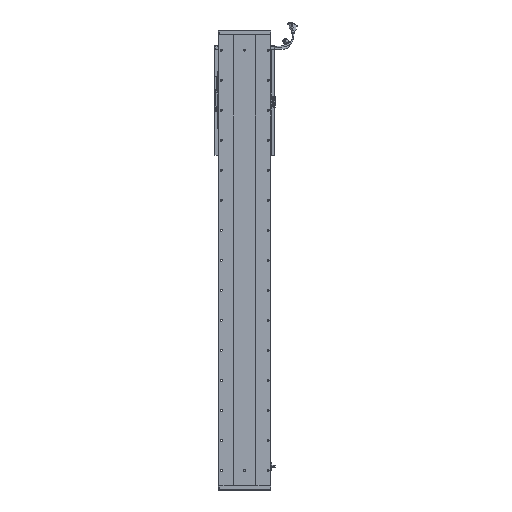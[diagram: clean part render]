
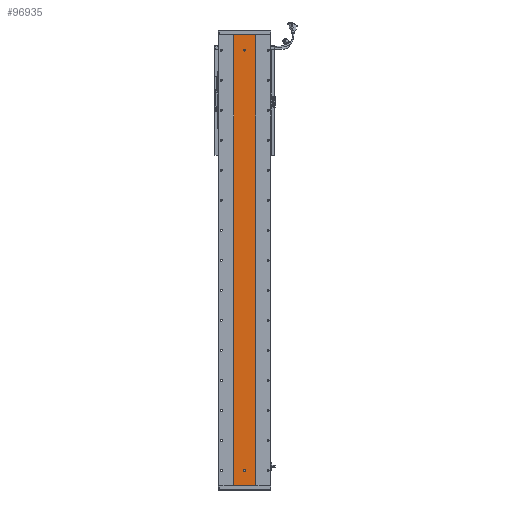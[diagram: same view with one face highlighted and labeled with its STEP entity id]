
A CAD part, front view. The second image highlights one B-rep face of the part: STEP entity #96935.
In plain terms, the highlighted planar face has unit normal (0, -1, 0).
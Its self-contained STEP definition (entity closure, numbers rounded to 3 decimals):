
#2423 = DIRECTION ( 'NONE',  ( 0., 1., 0. ) ) ;
#3058 = CIRCLE ( 'NONE', #61910, 3. ) ;
#4194 = ORIENTED_EDGE ( 'NONE', *, *, #55574, .F. ) ;
#5089 = CARTESIAN_POINT ( 'NONE',  ( 3280.529, 1415.701, 46.5 ) ) ;
#5743 = LINE ( 'NONE', #53277, #46044 ) ;
#7919 = AXIS2_PLACEMENT_3D ( 'NONE', #84320, #82903, #52257 ) ;
#9942 = DIRECTION ( 'NONE',  ( 1., 0., 0. ) ) ;
#10207 = VERTEX_POINT ( 'NONE', #47396 ) ;
#10556 = ORIENTED_EDGE ( 'NONE', *, *, #96652, .F. ) ;
#10754 = EDGE_LOOP ( 'NONE', ( #31314, #67454, #82282, #18215 ) ) ;
#11623 = EDGE_LOOP ( 'NONE', ( #10556, #42075, #16822, #41465, #43361 ) ) ;
#11889 = LINE ( 'NONE', #49975, #14410 ) ;
#12915 = CARTESIAN_POINT ( 'NONE',  ( 3283.529, 1415.701, 52.5 ) ) ;
#13720 = CARTESIAN_POINT ( 'NONE',  ( 3244.748, 1415.701, 0. ) ) ;
#14410 = VECTOR ( 'NONE', #65490, 1000. ) ;
#15051 = CIRCLE ( 'NONE', #21229, 3. ) ;
#16492 = CARTESIAN_POINT ( 'NONE',  ( 3244.748, 1415.701, 0. ) ) ;
#16822 = ORIENTED_EDGE ( 'NONE', *, *, #19238, .F. ) ;
#18215 = ORIENTED_EDGE ( 'NONE', *, *, #92267, .T. ) ;
#18465 = LINE ( 'NONE', #19101, #37353 ) ;
#18932 = DIRECTION ( 'NONE',  ( 0., -1., 0. ) ) ;
#19101 = CARTESIAN_POINT ( 'NONE',  ( 3244.748, 1415.701, 1502. ) ) ;
#19238 = EDGE_CURVE ( 'NONE', #31641, #32462, #53413, .T. ) ;
#21229 = AXIS2_PLACEMENT_3D ( 'NONE', #83650, #18932, #84707 ) ;
#21458 = VECTOR ( 'NONE', #83554, 1000. ) ;
#24348 = CARTESIAN_POINT ( 'NONE',  ( 3316.311, 1415.701, 0. ) ) ;
#25868 = CIRCLE ( 'NONE', #7919, 3. ) ;
#26399 = CARTESIAN_POINT ( 'NONE',  ( 3244.748, 1415.701, 1502. ) ) ;
#30458 = EDGE_CURVE ( 'NONE', #46452, #89216, #5743, .T. ) ;
#31314 = ORIENTED_EDGE ( 'NONE', *, *, #63542, .T. ) ;
#31641 = VERTEX_POINT ( 'NONE', #12915 ) ;
#32462 = VERTEX_POINT ( 'NONE', #97922 ) ;
#32804 = CARTESIAN_POINT ( 'NONE',  ( 3277.529, 1415.701, 49.5 ) ) ;
#34230 = DIRECTION ( 'NONE',  ( 0., 0., -1. ) ) ;
#36367 = CARTESIAN_POINT ( 'NONE',  ( 3280.529, 1415.701, 49.5 ) ) ;
#36529 = FACE_BOUND ( 'NONE', #11623, .T. ) ;
#37054 = AXIS2_PLACEMENT_3D ( 'NONE', #49355, #90528, #34230 ) ;
#37353 = VECTOR ( 'NONE', #9942, 1000. ) ;
#37437 = EDGE_CURVE ( 'NONE', #10207, #46452, #18465, .T. ) ;
#38662 = ORIENTED_EDGE ( 'NONE', *, *, #70644, .F. ) ;
#41142 = CARTESIAN_POINT ( 'NONE',  ( 3280.529, 1415.701, 1448. ) ) ;
#41465 = ORIENTED_EDGE ( 'NONE', *, *, #76467, .F. ) ;
#42075 = ORIENTED_EDGE ( 'NONE', *, *, #49813, .F. ) ;
#43361 = ORIENTED_EDGE ( 'NONE', *, *, #93058, .F. ) ;
#45176 = DIRECTION ( 'NONE',  ( 0., 0., -1. ) ) ;
#46044 = VECTOR ( 'NONE', #45176, 1000. ) ;
#46185 = DIRECTION ( 'NONE',  ( 0., -1., 0. ) ) ;
#46452 = VERTEX_POINT ( 'NONE', #74806 ) ;
#47396 = CARTESIAN_POINT ( 'NONE',  ( 3244.748, 1415.701, 1502. ) ) ;
#49355 = CARTESIAN_POINT ( 'NONE',  ( 3280.529, 1415.701, 52.5 ) ) ;
#49813 = EDGE_CURVE ( 'NONE', #32462, #101430, #11889, .T. ) ;
#49975 = CARTESIAN_POINT ( 'NONE',  ( 3277.529, 1415.701, 52.5 ) ) ;
#52257 = DIRECTION ( 'NONE',  ( 0., 0., -1. ) ) ;
#52288 = VERTEX_POINT ( 'NONE', #5089 ) ;
#53277 = CARTESIAN_POINT ( 'NONE',  ( 3316.311, 1415.701, 1502. ) ) ;
#53413 = CIRCLE ( 'NONE', #37054, 3. ) ;
#54089 = FACE_BOUND ( 'NONE', #96325, .T. ) ;
#54291 = DIRECTION ( 'NONE',  ( 0., 0., -1. ) ) ;
#55170 = CARTESIAN_POINT ( 'NONE',  ( 3244.748, 1415.701, 1502. ) ) ;
#55574 = EDGE_CURVE ( 'NONE', #82800, #95119, #25868, .T. ) ;
#57423 = AXIS2_PLACEMENT_3D ( 'NONE', #86682, #46185, #54291 ) ;
#59140 = DIRECTION ( 'NONE',  ( 0., 0., 1. ) ) ;
#60001 = CARTESIAN_POINT ( 'NONE',  ( 3283.529, 1415.701, 52.5 ) ) ;
#61191 = VECTOR ( 'NONE', #103030, 1000. ) ;
#61345 = DIRECTION ( 'NONE',  ( 0., 0., -1. ) ) ;
#61910 = AXIS2_PLACEMENT_3D ( 'NONE', #36367, #67995, #61345 ) ;
#63542 = EDGE_CURVE ( 'NONE', #70438, #89216, #97313, .T. ) ;
#64327 = DIRECTION ( 'NONE',  ( 1., 0., 0. ) ) ;
#65490 = DIRECTION ( 'NONE',  ( 0., 0., -1. ) ) ;
#66797 = AXIS2_PLACEMENT_3D ( 'NONE', #26399, #2423, #59140 ) ;
#67454 = ORIENTED_EDGE ( 'NONE', *, *, #30458, .F. ) ;
#67552 = PLANE ( 'NONE',  #66797 ) ;
#67995 = DIRECTION ( 'NONE',  ( 0., -1., 0. ) ) ;
#70438 = VERTEX_POINT ( 'NONE', #13720 ) ;
#70644 = EDGE_CURVE ( 'NONE', #95119, #82800, #15051, .T. ) ;
#72658 = VERTEX_POINT ( 'NONE', #76726 ) ;
#74806 = CARTESIAN_POINT ( 'NONE',  ( 3316.311, 1415.701, 1502. ) ) ;
#75467 = FACE_OUTER_BOUND ( 'NONE', #10754, .T. ) ;
#76467 = EDGE_CURVE ( 'NONE', #72658, #31641, #80583, .T. ) ;
#76726 = CARTESIAN_POINT ( 'NONE',  ( 3283.529, 1415.701, 49.5 ) ) ;
#76940 = CARTESIAN_POINT ( 'NONE',  ( 3280.529, 1415.701, 1454. ) ) ;
#80583 = LINE ( 'NONE', #60001, #21458 ) ;
#82282 = ORIENTED_EDGE ( 'NONE', *, *, #37437, .F. ) ;
#82800 = VERTEX_POINT ( 'NONE', #41142 ) ;
#82903 = DIRECTION ( 'NONE',  ( 0., -1., 0. ) ) ;
#83554 = DIRECTION ( 'NONE',  ( 0., 0., 1. ) ) ;
#83650 = CARTESIAN_POINT ( 'NONE',  ( 3280.529, 1415.701, 1451. ) ) ;
#84320 = CARTESIAN_POINT ( 'NONE',  ( 3280.529, 1415.701, 1451. ) ) ;
#84707 = DIRECTION ( 'NONE',  ( 0., 0., -1. ) ) ;
#84753 = VECTOR ( 'NONE', #64327, 1000. ) ;
#86682 = CARTESIAN_POINT ( 'NONE',  ( 3280.529, 1415.701, 49.5 ) ) ;
#86963 = CIRCLE ( 'NONE', #57423, 3. ) ;
#89216 = VERTEX_POINT ( 'NONE', #24348 ) ;
#90528 = DIRECTION ( 'NONE',  ( 0., -1., 0. ) ) ;
#92267 = EDGE_CURVE ( 'NONE', #10207, #70438, #96448, .T. ) ;
#93058 = EDGE_CURVE ( 'NONE', #52288, #72658, #3058, .T. ) ;
#95119 = VERTEX_POINT ( 'NONE', #76940 ) ;
#96325 = EDGE_LOOP ( 'NONE', ( #4194, #38662 ) ) ;
#96448 = LINE ( 'NONE', #55170, #61191 ) ;
#96652 = EDGE_CURVE ( 'NONE', #101430, #52288, #86963, .T. ) ;
#96935 = ADVANCED_FACE ( 'NONE', ( #36529, #54089, #75467 ), #67552, .F. ) ;
#97313 = LINE ( 'NONE', #16492, #84753 ) ;
#97922 = CARTESIAN_POINT ( 'NONE',  ( 3277.529, 1415.701, 52.5 ) ) ;
#101430 = VERTEX_POINT ( 'NONE', #32804 ) ;
#103030 = DIRECTION ( 'NONE',  ( 0., 0., -1. ) ) ;
